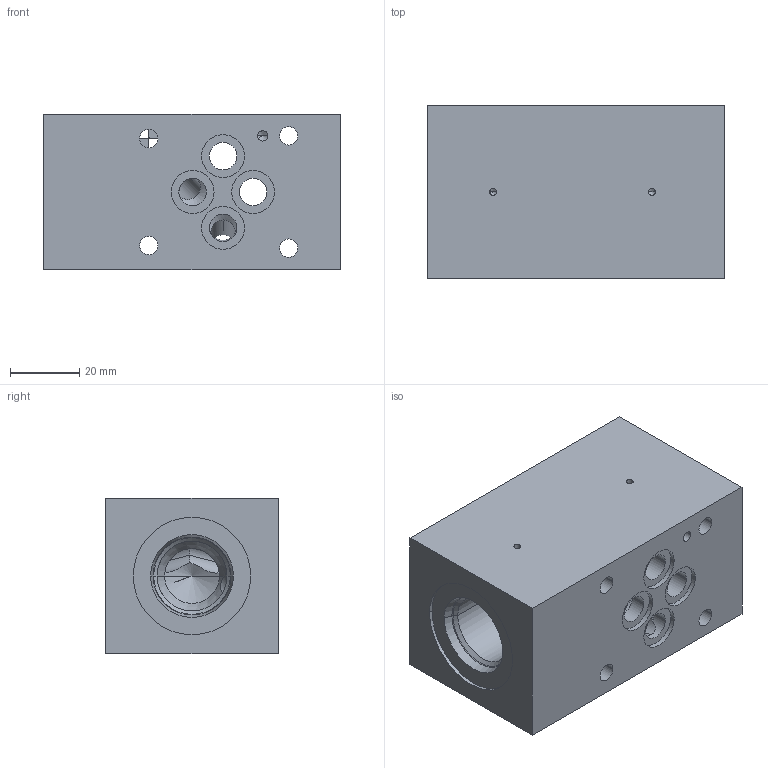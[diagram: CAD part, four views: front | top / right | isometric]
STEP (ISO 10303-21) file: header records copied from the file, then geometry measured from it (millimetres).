
FILE_DESCRIPTION((''),'2;1');
FILE_NAME('30380402','2023-10-12T',('l.soukupova'),(''),'PRO/ENGINEER BY PARAMETRIC TECHNOLOGY CORPORATION, 2015440','PRO/ENGINEER BY PARAMETRIC TECHNOLOGY CORPORATION, 2015440','');
FILE_SCHEMA(('AUTOMOTIVE_DESIGN { 1 0 10303 214 1 1 1 1 }'));
Length unit declared in the file: millimetre
Products named in the file (1): 30380402
Bounding box: 86 x 50 x 45 mm (x, y, z)
Volume: 166183.1 mm3; surface area: 32679.2 mm2
Topology: 1 solids, 4 shells, 103 faces, 403 edges, 363 vertices
Faces by surface type: cylinder 60, cone 28, plane 15
Entity records: 7054 total; most frequent: CARTESIAN_POINT 1872, DIRECTION 709, ORIENTED_EDGE 528, PRESENTATION_STYLE_ASSIGNMENT 482, STYLED_ITEM 439, CURVE_STYLE 436, EDGE_CURVE 270, AXIS2_PLACEMENT_3D 259
